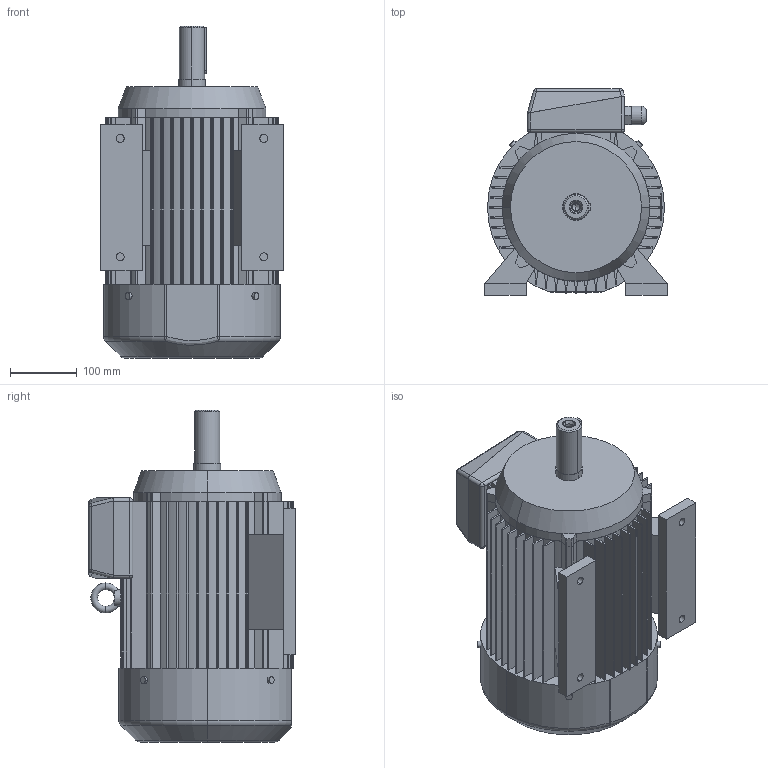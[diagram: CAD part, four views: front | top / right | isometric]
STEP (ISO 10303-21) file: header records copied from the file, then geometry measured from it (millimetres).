
FILE_DESCRIPTION (( 'STEP AP203' ), '1' );
FILE_NAME ('2SIE132M4,6A,6B.STEP', '2012-10-26T12:42:39', ( 'INDUKTA' ), ( 'CANTONI MOTOR' ), 'SwSTEP 2.0', 'SolidWorks 2003064', '' );
FILE_SCHEMA (( 'CONFIG_CONTROL_DESIGN' ));
Length unit declared in the file: millimetre
Products named in the file (1): 2SIE132M4,6A,6B
Bounding box: 274 x 310 x 499 mm (x, y, z)
Volume: 20264373.4 mm3; surface area: 1088904.3 mm2
Topology: 14 solids, 14 shells, 405 faces, 1068 edges, 675 vertices
Faces by surface type: plane 185, cylinder 182, cone 14, torus 13, sphere 10, bspline 1
Entity records: 13282 total; most frequent: CARTESIAN_POINT 3003, DIRECTION 2226, ORIENTED_EDGE 2112, EDGE_CURVE 1056, AXIS2_PLACEMENT_3D 802, VERTEX_POINT 675, LINE 622, VECTOR 622
